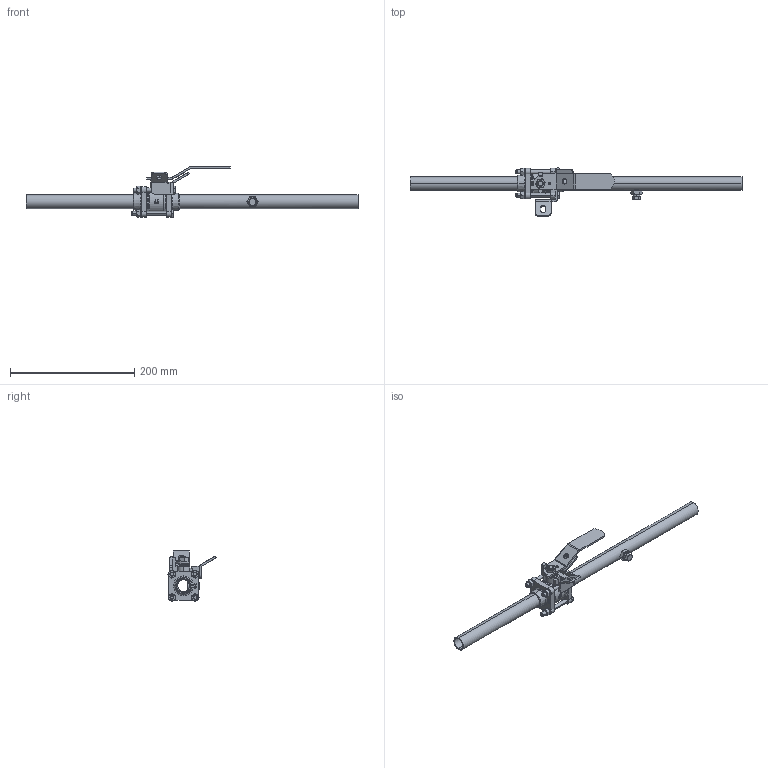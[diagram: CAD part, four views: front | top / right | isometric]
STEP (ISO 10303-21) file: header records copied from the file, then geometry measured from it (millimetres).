
FILE_DESCRIPTION(('Open CASCADE Model'),'2;1');
FILE_NAME('Open CASCADE Shape Model','2021-12-14T16:25:47',('Author'),( 'Open CASCADE'),'Open CASCADE STEP processor 7.3','Open CASCADE 7.3' ,'Unknown');
FILE_SCHEMA(('AUTOMOTIVE_DESIGN { 1 0 10303 214 1 1 1 1 }'));
Length unit declared in the file: millimetre
Products named in the file (30): Open CASCADE STEP translator 7.3 1; Open CASCADE STEP translator 7.3 1.1; Open CASCADE STEP translator 7.3 1.2; Open CASCADE STEP translator 7.3 1.3; Open CASCADE STEP translator 7.3 1.4; Open CASCADE STEP translator 7.3 1.5; Open CASCADE STEP translator 7.3 1.6; Open CASCADE STEP translator 7.3 1.7; Open CASCADE STEP translator 7.3 1.8; Open CASCADE STEP translator 7.3 1.9; Open CASCADE STEP translator 7.3 1.10; Open CASCADE STEP translator 7.3 1.11; Open CASCADE STEP translator 7.3 1.12; Open CASCADE STEP translator 7.3 1.13; Open CASCADE STEP translator 7.3 1.14; Open CASCADE STEP translator 7.3 1.15; Open CASCADE STEP translator 7.3 1.16; Open CASCADE STEP translator 7.3 1.17; Open CASCADE STEP translator 7.3 1.18; Open CASCADE STEP translator 7.3 1.19; Open CASCADE STEP translator 7.3 1.20; Open CASCADE STEP translator 7.3 1.21; Open CASCADE STEP translator 7.3 1.22; Open CASCADE STEP translator 7.3 1.23; Open CASCADE STEP translator 7.3 1.24; Open CASCADE STEP translator 7.3 1.25; Open CASCADE STEP translator 7.3 1.26; Open CASCADE STEP translator 7.3 1.27; Open CASCADE STEP translator 7.3 1.28; Open CASCADE STEP translator 7.3 1.29
Assembly tree (29 placements, depth 2):
  Open CASCADE STEP translator 7.3 1
    Open CASCADE STEP translator 7.3 1.1
    Open CASCADE STEP translator 7.3 1.2
    Open CASCADE STEP translator 7.3 1.3
    Open CASCADE STEP translator 7.3 1.4
    Open CASCADE STEP translator 7.3 1.5
    Open CASCADE STEP translator 7.3 1.6
    Open CASCADE STEP translator 7.3 1.7
    Open CASCADE STEP translator 7.3 1.8
    Open CASCADE STEP translator 7.3 1.9
    Open CASCADE STEP translator 7.3 1.10
    Open CASCADE STEP translator 7.3 1.11
    Open CASCADE STEP translator 7.3 1.12
    Open CASCADE STEP translator 7.3 1.13
    Open CASCADE STEP translator 7.3 1.14
    Open CASCADE STEP translator 7.3 1.15
    Open CASCADE STEP translator 7.3 1.16
    Open CASCADE STEP translator 7.3 1.17
    Open CASCADE STEP translator 7.3 1.18
    Open CASCADE STEP translator 7.3 1.19
    Open CASCADE STEP translator 7.3 1.20
    Open CASCADE STEP translator 7.3 1.21
    Open CASCADE STEP translator 7.3 1.22
    Open CASCADE STEP translator 7.3 1.23
    Open CASCADE STEP translator 7.3 1.24
    Open CASCADE STEP translator 7.3 1.25
    Open CASCADE STEP translator 7.3 1.26
    Open CASCADE STEP translator 7.3 1.27
    Open CASCADE STEP translator 7.3 1.28
    Open CASCADE STEP translator 7.3 1.29
Bounding box: 533.4 x 77.51 x 81.76 mm (x, y, z)
Volume: 156810.9 mm3; surface area: 131557.6 mm2
Topology: 29 solids, 29 shells, 1190 faces, 3084 edges, 2000 vertices
Faces by surface type: plane 498, bspline 267, cylinder 213, cone 192, torus 18, sphere 2
Entity records: 124296 total; most frequent: CARTESIAN_POINT 70882, DIRECTION 7015, ORIENTED_EDGE 6168, PCURVE 6168, DEFINITIONAL_REPRESENTATION 6168, B_SPLINE_CURVE_WITH_KNOTS 4475, LINE 3471, VECTOR 3471
